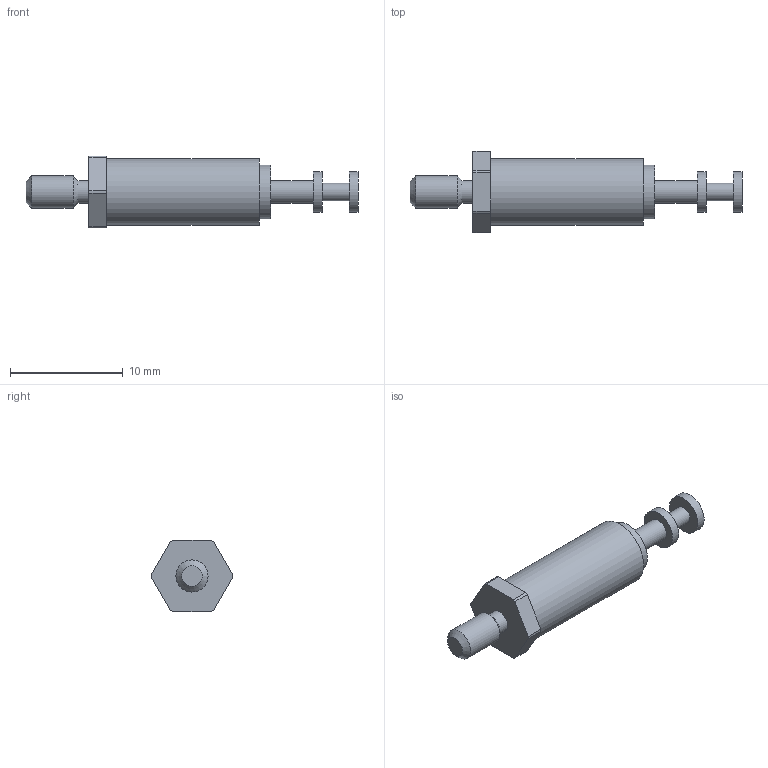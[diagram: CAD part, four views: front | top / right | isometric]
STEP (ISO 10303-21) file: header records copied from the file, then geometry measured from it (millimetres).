
FILE_DESCRIPTION(/* description */ (''),/* implementation_level */ '2;1');
FILE_NAME(/* name */ '\\Snap1\dwgs\Customer 3D Models\572\572-4816-01 Customer model.stp',/* time_stamp */ '2017-01-10T14:18:56+00:00',/* author */ ('paulk'),/* organization */ (''),/* preprocessor_version */ 'ST-DEVELOPER v15.2',/* originating_system */ 'Autodesk Inventor 2014',/* authorisation */ '');
FILE_SCHEMA (('CONFIG_CONTROL_DESIGN'));
Length unit declared in the file: millimetre
Products named in the file (1): 572-4816-01 Customer model
Bounding box: 29.39 x 7.2 x 6.35 mm (x, y, z)
Volume: 503.9 mm3; surface area: 500 mm2
Topology: 1 solids, 1 shells, 31 faces, 63 edges, 41 vertices
Faces by surface type: plane 15, cylinder 14, cone 2
Full cylindrical faces by diameter (mm): 1.575 x1, 1.981 x2, 2.844 x1, 3.556 x2, 4.775 x1, 5.893 x1
Entity records: 845 total; most frequent: DIRECTION 146, CARTESIAN_POINT 126, ORIENTED_EDGE 106, AXIS2_PLACEMENT_3D 61, EDGE_CURVE 53, EDGE_LOOP 48, VERTEX_POINT 41, STYLED_ITEM 32
